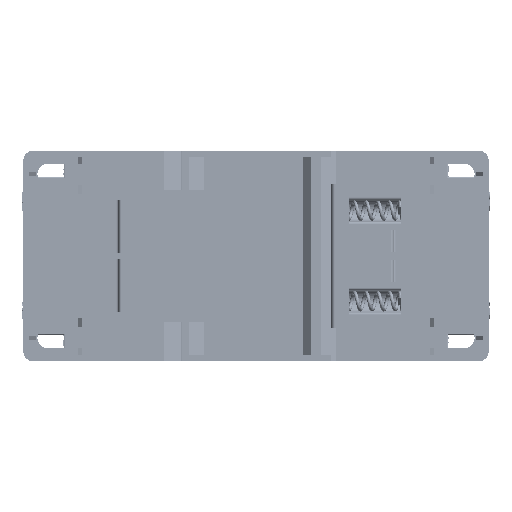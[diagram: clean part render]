
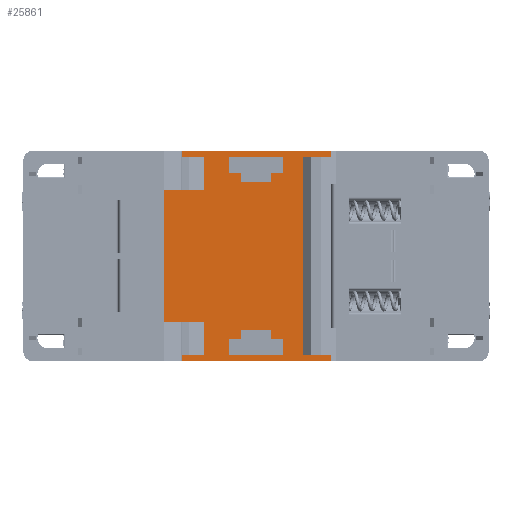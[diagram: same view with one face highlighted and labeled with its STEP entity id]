
A CAD part, front view. The second image highlights one B-rep face of the part: STEP entity #25861.
In plain terms, the highlighted planar face has unit normal (0, -1, 0).
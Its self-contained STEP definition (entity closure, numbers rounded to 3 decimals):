
#25861=ADVANCED_FACE('',(#107949,#107950,#107951),#38809,.F.);
#38809=PLANE('',#275404);
#56203=LINE('',#393302,#87557);
#56232=LINE('',#393365,#87586);
#56235=LINE('',#393372,#87589);
#56239=LINE('',#393380,#87593);
#56240=LINE('',#393383,#87594);
#56241=LINE('',#393384,#87595);
#56242=LINE('',#393386,#87596);
#56243=LINE('',#393388,#87597);
#56244=LINE('',#393390,#87598);
#56245=LINE('',#393392,#87599);
#56246=LINE('',#393394,#87600);
#56247=LINE('',#393396,#87601);
#56248=LINE('',#393397,#87602);
#56249=LINE('',#393399,#87603);
#56250=LINE('',#393401,#87604);
#56251=LINE('',#393403,#87605);
#56252=LINE('',#393404,#87606);
#56253=LINE('',#393407,#87607);
#56254=LINE('',#393409,#87608);
#56255=LINE('',#393411,#87609);
#56256=LINE('',#393413,#87610);
#56257=LINE('',#393415,#87611);
#56258=LINE('',#393417,#87612);
#56259=LINE('',#393419,#87613);
#56260=LINE('',#393420,#87614);
#56261=LINE('',#393423,#87615);
#56262=LINE('',#393425,#87616);
#56263=LINE('',#393427,#87617);
#56264=LINE('',#393429,#87618);
#56265=LINE('',#393431,#87619);
#56266=LINE('',#393433,#87620);
#56267=LINE('',#393435,#87621);
#87557=VECTOR('',#311587,1.);
#87586=VECTOR('',#311630,1.);
#87589=VECTOR('',#311635,1.);
#87593=VECTOR('',#311641,1.);
#87594=VECTOR('',#311642,1.);
#87595=VECTOR('',#311643,1.);
#87596=VECTOR('',#311644,1.);
#87597=VECTOR('',#311645,1.);
#87598=VECTOR('',#311646,1.);
#87599=VECTOR('',#311647,1.);
#87600=VECTOR('',#311648,1.);
#87601=VECTOR('',#311649,1.);
#87602=VECTOR('',#311650,1.);
#87603=VECTOR('',#311651,1.);
#87604=VECTOR('',#311652,1.);
#87605=VECTOR('',#311653,1.);
#87606=VECTOR('',#311654,1.);
#87607=VECTOR('',#311655,1.);
#87608=VECTOR('',#311656,1.);
#87609=VECTOR('',#311657,1.);
#87610=VECTOR('',#311658,1.);
#87611=VECTOR('',#311659,1.);
#87612=VECTOR('',#311660,1.);
#87613=VECTOR('',#311661,1.);
#87614=VECTOR('',#311662,1.);
#87615=VECTOR('',#311663,1.);
#87616=VECTOR('',#311664,1.);
#87617=VECTOR('',#311665,1.);
#87618=VECTOR('',#311666,1.);
#87619=VECTOR('',#311667,1.);
#87620=VECTOR('',#311668,1.);
#87621=VECTOR('',#311669,1.);
#107949=FACE_BOUND('',#113181,.T.);
#107950=FACE_BOUND('',#113182,.T.);
#107951=FACE_BOUND('',#113183,.T.);
#113181=EDGE_LOOP('',(#148941,#148942,#148943,#148944,#148945,#148946,#148947,
#148948,#148949,#148950,#148951,#148952,#148953,#148954,#148955,#148956));
#113182=EDGE_LOOP('',(#148957,#148958,#148959,#148960,#148961,#148962,#148963,
#148964));
#113183=EDGE_LOOP('',(#148965,#148966,#148967,#148968,#148969,#148970,#148971,
#148972));
#148941=ORIENTED_EDGE('',*,*,#238898,.F.);
#148942=ORIENTED_EDGE('',*,*,#238899,.T.);
#148943=ORIENTED_EDGE('',*,*,#238859,.F.);
#148944=ORIENTED_EDGE('',*,*,#238891,.T.);
#148945=ORIENTED_EDGE('',*,*,#238900,.F.);
#148946=ORIENTED_EDGE('',*,*,#238901,.F.);
#148947=ORIENTED_EDGE('',*,*,#238902,.F.);
#148948=ORIENTED_EDGE('',*,*,#238903,.T.);
#148949=ORIENTED_EDGE('',*,*,#238904,.F.);
#148950=ORIENTED_EDGE('',*,*,#238905,.F.);
#148951=ORIENTED_EDGE('',*,*,#238906,.T.);
#148952=ORIENTED_EDGE('',*,*,#238894,.T.);
#148953=ORIENTED_EDGE('',*,*,#238907,.F.);
#148954=ORIENTED_EDGE('',*,*,#238908,.T.);
#148955=ORIENTED_EDGE('',*,*,#238909,.T.);
#148956=ORIENTED_EDGE('',*,*,#238910,.T.);
#148957=ORIENTED_EDGE('',*,*,#238911,.F.);
#148958=ORIENTED_EDGE('',*,*,#238912,.F.);
#148959=ORIENTED_EDGE('',*,*,#238913,.F.);
#148960=ORIENTED_EDGE('',*,*,#238914,.F.);
#148961=ORIENTED_EDGE('',*,*,#238915,.F.);
#148962=ORIENTED_EDGE('',*,*,#238916,.F.);
#148963=ORIENTED_EDGE('',*,*,#238917,.F.);
#148964=ORIENTED_EDGE('',*,*,#238918,.F.);
#148965=ORIENTED_EDGE('',*,*,#238919,.F.);
#148966=ORIENTED_EDGE('',*,*,#238920,.F.);
#148967=ORIENTED_EDGE('',*,*,#238921,.F.);
#148968=ORIENTED_EDGE('',*,*,#238922,.F.);
#148969=ORIENTED_EDGE('',*,*,#238923,.F.);
#148970=ORIENTED_EDGE('',*,*,#238924,.F.);
#148971=ORIENTED_EDGE('',*,*,#238925,.F.);
#148972=ORIENTED_EDGE('',*,*,#238926,.F.);
#209208=VERTEX_POINT('',#393303);
#209209=VERTEX_POINT('',#393304);
#209234=VERTEX_POINT('',#393364);
#209237=VERTEX_POINT('',#393371);
#209238=VERTEX_POINT('',#393373);
#209241=VERTEX_POINT('',#393381);
#209242=VERTEX_POINT('',#393382);
#209243=VERTEX_POINT('',#393385);
#209244=VERTEX_POINT('',#393387);
#209245=VERTEX_POINT('',#393389);
#209246=VERTEX_POINT('',#393391);
#209247=VERTEX_POINT('',#393393);
#209248=VERTEX_POINT('',#393395);
#209249=VERTEX_POINT('',#393398);
#209250=VERTEX_POINT('',#393400);
#209251=VERTEX_POINT('',#393402);
#209252=VERTEX_POINT('',#393405);
#209253=VERTEX_POINT('',#393406);
#209254=VERTEX_POINT('',#393408);
#209255=VERTEX_POINT('',#393410);
#209256=VERTEX_POINT('',#393412);
#209257=VERTEX_POINT('',#393414);
#209258=VERTEX_POINT('',#393416);
#209259=VERTEX_POINT('',#393418);
#209260=VERTEX_POINT('',#393421);
#209261=VERTEX_POINT('',#393422);
#209262=VERTEX_POINT('',#393424);
#209263=VERTEX_POINT('',#393426);
#209264=VERTEX_POINT('',#393428);
#209265=VERTEX_POINT('',#393430);
#209266=VERTEX_POINT('',#393432);
#209267=VERTEX_POINT('',#393434);
#238859=EDGE_CURVE('',#209208,#209209,#56203,.T.);
#238891=EDGE_CURVE('',#209208,#209234,#56232,.T.);
#238894=EDGE_CURVE('',#209238,#209237,#56235,.T.);
#238898=EDGE_CURVE('',#209241,#209242,#56239,.T.);
#238899=EDGE_CURVE('',#209241,#209209,#56240,.T.);
#238900=EDGE_CURVE('',#209243,#209234,#56241,.T.);
#238901=EDGE_CURVE('',#209244,#209243,#56242,.T.);
#238902=EDGE_CURVE('',#209245,#209244,#56243,.T.);
#238903=EDGE_CURVE('',#209245,#209246,#56244,.T.);
#238904=EDGE_CURVE('',#209247,#209246,#56245,.T.);
#238905=EDGE_CURVE('',#209248,#209247,#56246,.T.);
#238906=EDGE_CURVE('',#209248,#209238,#56247,.T.);
#238907=EDGE_CURVE('',#209249,#209237,#56248,.T.);
#238908=EDGE_CURVE('',#209249,#209250,#56249,.T.);
#238909=EDGE_CURVE('',#209250,#209251,#56250,.T.);
#238910=EDGE_CURVE('',#209251,#209242,#56251,.T.);
#238911=EDGE_CURVE('',#209252,#209253,#56252,.T.);
#238912=EDGE_CURVE('',#209254,#209252,#56253,.T.);
#238913=EDGE_CURVE('',#209255,#209254,#56254,.T.);
#238914=EDGE_CURVE('',#209256,#209255,#56255,.T.);
#238915=EDGE_CURVE('',#209257,#209256,#56256,.T.);
#238916=EDGE_CURVE('',#209258,#209257,#56257,.T.);
#238917=EDGE_CURVE('',#209259,#209258,#56258,.T.);
#238918=EDGE_CURVE('',#209253,#209259,#56259,.T.);
#238919=EDGE_CURVE('',#209260,#209261,#56260,.T.);
#238920=EDGE_CURVE('',#209262,#209260,#56261,.T.);
#238921=EDGE_CURVE('',#209263,#209262,#56262,.T.);
#238922=EDGE_CURVE('',#209264,#209263,#56263,.T.);
#238923=EDGE_CURVE('',#209265,#209264,#56264,.T.);
#238924=EDGE_CURVE('',#209266,#209265,#56265,.T.);
#238925=EDGE_CURVE('',#209267,#209266,#56266,.T.);
#238926=EDGE_CURVE('',#209261,#209267,#56267,.T.);
#275404=AXIS2_PLACEMENT_3D('',#393436,#311670,#311671);
#311587=DIRECTION('',(1.,0.,0.));
#311630=DIRECTION('',(0.,0.,-1.));
#311635=DIRECTION('',(0.,0.,-1.));
#311641=DIRECTION('',(-1.,0.,0.));
#311642=DIRECTION('',(0.,0.,1.));
#311643=DIRECTION('',(-1.,0.,0.));
#311644=DIRECTION('',(0.,0.,1.));
#311645=DIRECTION('',(1.,0.,0.));
#311646=DIRECTION('',(0.,0.,-1.));
#311647=DIRECTION('',(-1.,0.,0.));
#311648=DIRECTION('',(0.,0.,1.));
#311649=DIRECTION('',(-1.,0.,0.));
#311650=DIRECTION('',(-1.,0.,0.));
#311651=DIRECTION('',(0.,0.,1.));
#311652=DIRECTION('',(-1.,0.,0.));
#311653=DIRECTION('',(0.,0.,1.));
#311654=DIRECTION('',(0.,0.,-1.));
#311655=DIRECTION('',(-1.,0.,0.));
#311656=DIRECTION('',(0.,0.,-1.));
#311657=DIRECTION('',(-1.,0.,0.));
#311658=DIRECTION('',(0.,0.,1.));
#311659=DIRECTION('',(-1.,0.,0.));
#311660=DIRECTION('',(0.,0.,1.));
#311661=DIRECTION('',(1.,0.,0.));
#311662=DIRECTION('',(-1.,0.,0.));
#311663=DIRECTION('',(0.,0.,1.));
#311664=DIRECTION('',(1.,0.,0.));
#311665=DIRECTION('',(0.,0.,1.));
#311666=DIRECTION('',(1.,0.,0.));
#311667=DIRECTION('',(0.,0.,-1.));
#311668=DIRECTION('',(1.,0.,0.));
#311669=DIRECTION('',(0.,0.,-1.));
#311670=DIRECTION('',(0.,1.,0.));
#311671=DIRECTION('',(1.,0.,0.));
#393302=CARTESIAN_POINT('',(-17.3,-41.5,22.5));
#393303=CARTESIAN_POINT('',(-17.3,-41.5,22.5));
#393304=CARTESIAN_POINT('',(16.1,-41.5,22.5));
#393364=CARTESIAN_POINT('',(-17.3,-41.5,21.1));
#393365=CARTESIAN_POINT('',(-17.3,-41.5,22.5));
#393371=CARTESIAN_POINT('',(-17.3,-41.5,-22.5));
#393372=CARTESIAN_POINT('',(-17.3,-41.5,-21.1));
#393373=CARTESIAN_POINT('',(-17.3,-41.5,-21.1));
#393380=CARTESIAN_POINT('',(16.1,-41.5,21.1));
#393381=CARTESIAN_POINT('',(16.1,-41.5,21.1));
#393382=CARTESIAN_POINT('',(10.,-41.5,21.1));
#393383=CARTESIAN_POINT('',(16.1,-41.5,21.1));
#393384=CARTESIAN_POINT('',(-11.1,-41.5,21.1));
#393385=CARTESIAN_POINT('',(-11.1,-41.5,21.1));
#393386=CARTESIAN_POINT('',(-11.1,-41.5,14.2));
#393387=CARTESIAN_POINT('',(-11.1,-41.5,14.2));
#393388=CARTESIAN_POINT('',(-19.8,-41.5,14.2));
#393389=CARTESIAN_POINT('',(-19.8,-41.5,14.2));
#393390=CARTESIAN_POINT('',(-19.8,-41.5,14.2));
#393391=CARTESIAN_POINT('',(-19.8,-41.5,-14.2));
#393392=CARTESIAN_POINT('',(-11.1,-41.5,-14.2));
#393393=CARTESIAN_POINT('',(-11.1,-41.5,-14.2));
#393394=CARTESIAN_POINT('',(-11.1,-41.5,-21.1));
#393395=CARTESIAN_POINT('',(-11.1,-41.5,-21.1));
#393396=CARTESIAN_POINT('',(-11.1,-41.5,-21.1));
#393397=CARTESIAN_POINT('',(16.1,-41.5,-22.5));
#393398=CARTESIAN_POINT('',(16.1,-41.5,-22.5));
#393399=CARTESIAN_POINT('',(16.1,-41.5,-22.5));
#393400=CARTESIAN_POINT('',(16.1,-41.5,-21.1));
#393401=CARTESIAN_POINT('',(16.1,-41.5,-21.1));
#393402=CARTESIAN_POINT('',(10.,-41.5,-21.1));
#393403=CARTESIAN_POINT('',(10.,-41.5,-21.1));
#393404=CARTESIAN_POINT('',(-5.75,-41.5,-17.7));
#393405=CARTESIAN_POINT('',(-5.75,-41.5,-17.7));
#393406=CARTESIAN_POINT('',(-5.75,-41.5,-21.1));
#393407=CARTESIAN_POINT('',(-3.25,-41.5,-17.7));
#393408=CARTESIAN_POINT('',(-3.25,-41.5,-17.7));
#393409=CARTESIAN_POINT('',(-3.25,-41.5,-15.9));
#393410=CARTESIAN_POINT('',(-3.25,-41.5,-15.9));
#393411=CARTESIAN_POINT('',(3.25,-41.5,-15.9));
#393412=CARTESIAN_POINT('',(3.25,-41.5,-15.9));
#393413=CARTESIAN_POINT('',(3.25,-41.5,-17.7));
#393414=CARTESIAN_POINT('',(3.25,-41.5,-17.7));
#393415=CARTESIAN_POINT('',(5.75,-41.5,-17.7));
#393416=CARTESIAN_POINT('',(5.75,-41.5,-17.7));
#393417=CARTESIAN_POINT('',(5.75,-41.5,-21.1));
#393418=CARTESIAN_POINT('',(5.75,-41.5,-21.1));
#393419=CARTESIAN_POINT('',(-5.75,-41.5,-21.1));
#393420=CARTESIAN_POINT('',(5.75,-41.5,21.1));
#393421=CARTESIAN_POINT('',(5.75,-41.5,21.1));
#393422=CARTESIAN_POINT('',(-5.75,-41.5,21.1));
#393423=CARTESIAN_POINT('',(5.75,-41.5,17.7));
#393424=CARTESIAN_POINT('',(5.75,-41.5,17.7));
#393425=CARTESIAN_POINT('',(3.25,-41.5,17.7));
#393426=CARTESIAN_POINT('',(3.25,-41.5,17.7));
#393427=CARTESIAN_POINT('',(3.25,-41.5,15.9));
#393428=CARTESIAN_POINT('',(3.25,-41.5,15.9));
#393429=CARTESIAN_POINT('',(-3.25,-41.5,15.9));
#393430=CARTESIAN_POINT('',(-3.25,-41.5,15.9));
#393431=CARTESIAN_POINT('',(-3.25,-41.5,17.7));
#393432=CARTESIAN_POINT('',(-3.25,-41.5,17.7));
#393433=CARTESIAN_POINT('',(-5.75,-41.5,17.7));
#393434=CARTESIAN_POINT('',(-5.75,-41.5,17.7));
#393435=CARTESIAN_POINT('',(-5.75,-41.5,21.1));
#393436=CARTESIAN_POINT('',(15.6,-41.5,-22.5));
